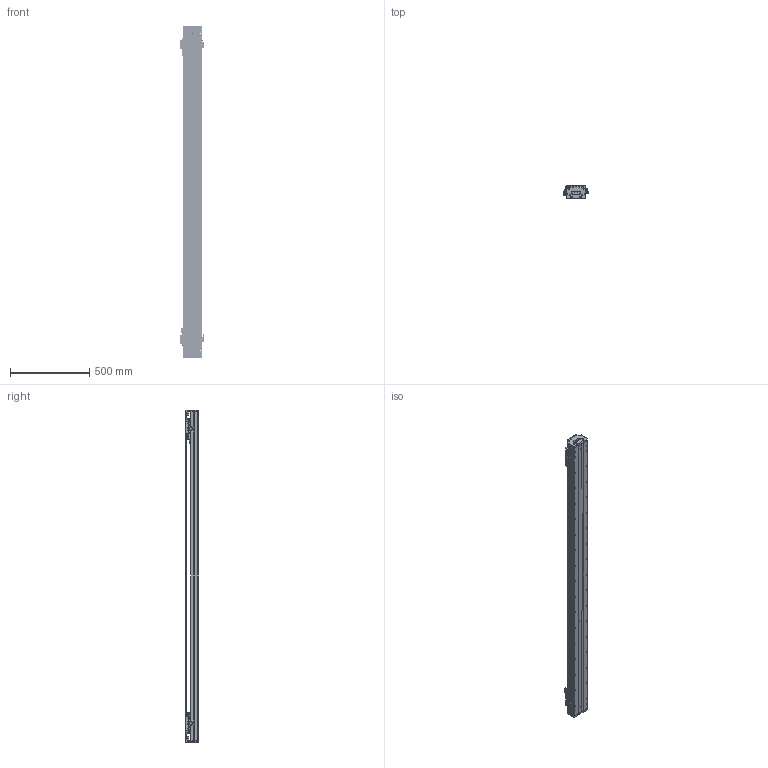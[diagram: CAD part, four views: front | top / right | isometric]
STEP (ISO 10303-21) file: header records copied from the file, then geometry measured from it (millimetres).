
FILE_DESCRIPTION (( 'STEP AP203' ), '1' );
FILE_NAME ('DKW120-2×B15-W060（T1700-L005-0.2）.STEP', '2021-09-29T03:40:18', ( '微软用户' ), ( '微软中国' ), 'SwSTEP 2.0', 'SolidWorks 2018', '' );
FILE_SCHEMA (( 'CONFIG_CONTROL_DESIGN' ));
Length unit declared in the file: millimetre
Products named in the file (27): DKW120-2×B15-W060（T1700-L005-0.2）; Ru2; DKW-HXJ-JY-00 遣喳砎蝶; DKW-HYB-JY-A-00 賑輸揤啣A; RUS嫖掑郪璃; 10940-0001-004-00 120詩湍裔啣; DKW119-HT-C15-00 賑怢啣; DKW119-RU-DTJ-00 RU2黍杅芛盓殤; 砎蝶猾沭; MSB15TS2FC+U92.7-16.35_16.35N_(0_45.85_0_01G-M4); 10980-0001-003-00 嫖萇羲壽嘐隅釱; 12160-0000-003-00 DKW120詩湍嶺輸; BKM015-W060-C1-TP-3; EE_SX674A; 12160-0000-004-00  DKW120詩湍揤輸; B15-W060; DKW-DG-XJ-Z-00 笢潔滅袉砎蝶; DKW120 单轴模组-拉钢带组件; MSB15-DG-U; DKW-GYP-ZJ-00 笢潔嫖萇覜茼え; BKMA01-W060-TRL280; 06652-0001-001-00 DKW120傷啣; DKW120-B15-T300-DZ-00 菁釱; DKW-KGZ-ZJ-00 中间光电开关支架; DKW-SG-GYP-H-00 嫖萇覜茼え; RUS嫖掑喜; 06652-0001-004-00 DKW120嶺輸菜輸
Assembly tree (49 placements, depth 3):
  DKW120-2×B15-W060（T1700-L005-0.2）
    DKW120-B15-T300-DZ-00 菁釱
    B15-W060  x2
      DKW-SG-GYP-H-00 嫖萇覜茼え
      DKW-HYB-JY-A-00 賑輸揤啣A
      DKW119-HT-C15-00 賑怢啣
      MSB15TS2FC+U92.7-16.35_16.35N_(0_45.85_0_01G-M4)
      BKM015-W060-C1-TP-3
    MSB15-DG-U  x2
    DKW120 单轴模组-拉钢带组件
      06652-0001-001-00 DKW120傷啣  x2
      06652-0001-004-00 DKW120嶺輸菜輸  x4
      DKW-HXJ-JY-00 遣喳砎蝶  x4
      10940-0001-004-00 120詩湍裔啣
      砎蝶猾沭  x2
      12160-0000-003-00 DKW120詩湍嶺輸  x2
      12160-0000-004-00  DKW120詩湍揤輸  x2
    BKMA01-W060-TRL280
    RUS嫖掑郪璃
      RUS嫖掑喜
      Ru2
    DKW119-RU-DTJ-00 RU2黍杅芛盓殤  x2
    10980-0001-003-00 嫖萇羲壽嘐隅釱  x2
    EE_SX674A  x5
    DKW-DG-XJ-Z-00 笢潔滅袉砎蝶
    DKW-GYP-ZJ-00 笢潔嫖萇覜茼え
    DKW-KGZ-ZJ-00 中间光电开关支架
    Ru2
Bounding box: 154.09 x 84 x 2096 mm (x, y, z)
Volume: 7495812.4 mm3; surface area: 2973981.3 mm2
Topology: 76 solids, 174 shells, 7036 faces, 19084 edges, 12307 vertices
Faces by surface type: plane 3994, cylinder 1952, cone 556, bspline 534
Entity records: 133719 total; most frequent: CARTESIAN_POINT 47293, ORIENTED_EDGE 17807, DIRECTION 16415, EDGE_CURVE 8944, VERTEX_POINT 5865, AXIS2_PLACEMENT_3D 5508, LINE 5399, VECTOR 5399
